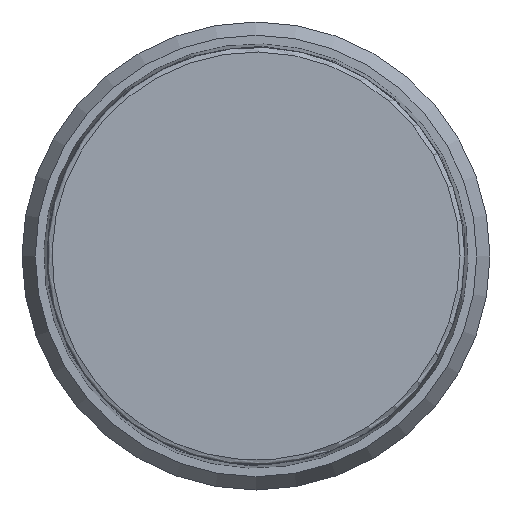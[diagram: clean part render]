
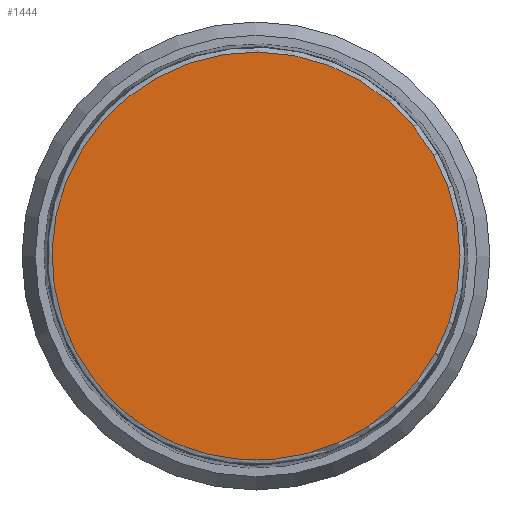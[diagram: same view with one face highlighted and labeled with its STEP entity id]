
A CAD part, left-side view. The second image highlights one B-rep face of the part: STEP entity #1444.
In plain terms, the highlighted planar face has unit normal (-1, 0, 0).
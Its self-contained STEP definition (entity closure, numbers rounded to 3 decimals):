
#49=PLANE('',#1550);
#169=FACE_OUTER_BOUND('',#249,.T.);
#249=EDGE_LOOP('',(#984,#985));
#487=CIRCLE('',#1551,13.078);
#488=CIRCLE('',#1552,13.078);
#602=VERTEX_POINT('',#2433);
#603=VERTEX_POINT('',#2434);
#755=EDGE_CURVE('',#602,#603,#487,.T.);
#756=EDGE_CURVE('',#603,#602,#488,.T.);
#984=ORIENTED_EDGE('',*,*,#755,.F.);
#985=ORIENTED_EDGE('',*,*,#756,.F.);
#1444=ADVANCED_FACE('',(#169),#49,.T.);
#1550=AXIS2_PLACEMENT_3D('',#2432,#1756,#1757);
#1551=AXIS2_PLACEMENT_3D('',#2435,#1758,#1759);
#1552=AXIS2_PLACEMENT_3D('',#2436,#1760,#1761);
#1756=DIRECTION('center_axis',(-1.,0.,0.));
#1757=DIRECTION('ref_axis',(0.,-1.,0.));
#1758=DIRECTION('center_axis',(1.,0.,0.));
#1759=DIRECTION('ref_axis',(0.,1.,0.));
#1760=DIRECTION('center_axis',(1.,0.,0.));
#1761=DIRECTION('ref_axis',(0.,1.,0.));
#2432=CARTESIAN_POINT('Origin',(-73.339,-28.591,26.482));
#2433=CARTESIAN_POINT('',(-73.339,-6.458,16.763));
#2434=CARTESIAN_POINT('',(-73.339,-28.288,26.482));
#2435=CARTESIAN_POINT('Origin',(-73.339,-15.21,26.482));
#2436=CARTESIAN_POINT('Origin',(-73.339,-15.21,26.482));
